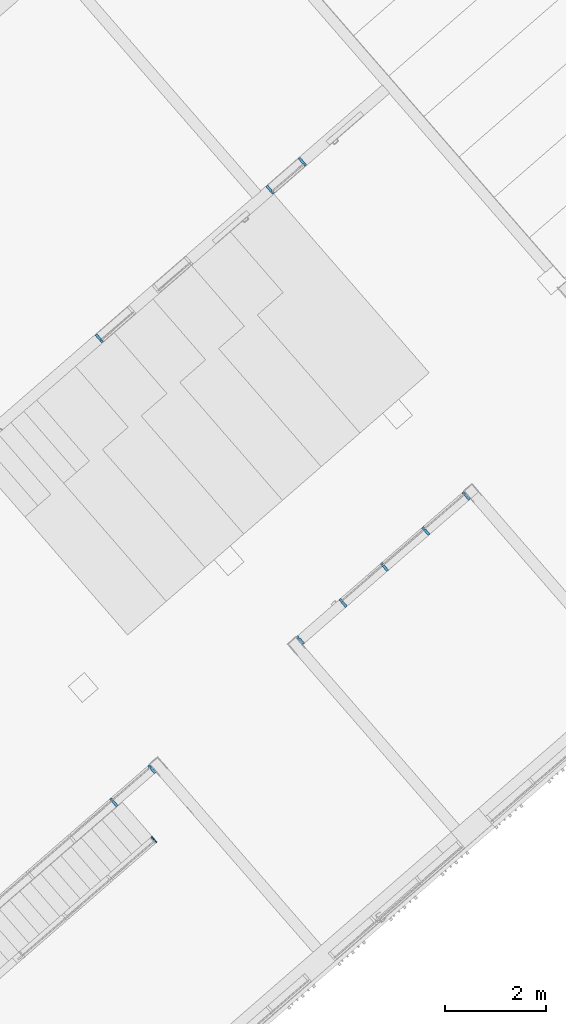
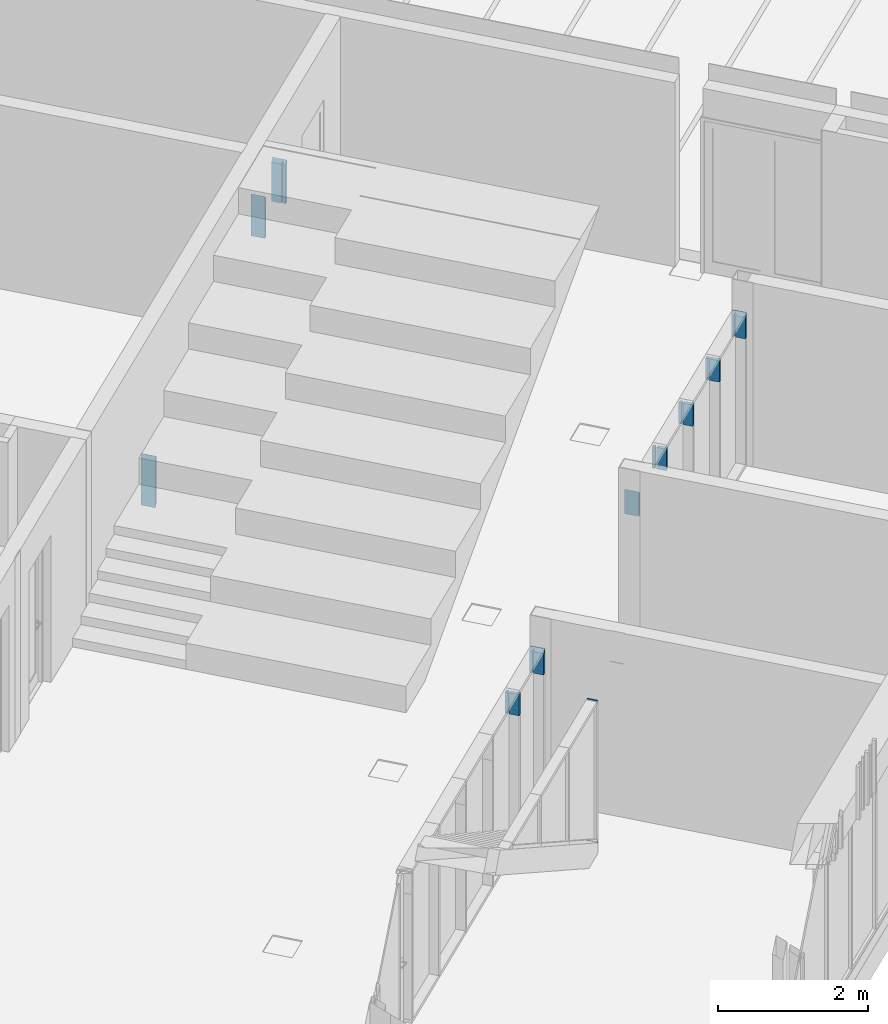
# One storey, part 16 of 124: 12 discrete accessories, 5 elements without a shape of their own.
"""IFC2X3 building model written with IfcOpenShell, lengths in millimetres."""

from ifc_helpers import new_model, entity, si_unit, converted_unit, derived_unit, money_unit, direction, frame, origin_with_axes, place, context, subcontext, project, spatial, polyline, outline, extrude, clip, halfspace, material, material_list, type_object, element, aggregate, save


model = new_model("IFC2X3")

# Units and contexts
model_context = context("Model", 3, precision=1e-05, world=origin_with_axes(), true_north=direction((0.0, 1.0)))
body_context = subcontext(model_context, "Body", "Model", "MODEL_VIEW")
ifc_project = project(units=[si_unit("LENGTHUNIT", "METRE", prefix="MILLI"), si_unit("AREAUNIT", "SQUARE_METRE"), si_unit("VOLUMEUNIT", "CUBIC_METRE"), converted_unit("PLANEANGLEUNIT", "DEGREE", entity("IfcPlaneAngleMeasure", 0.0174532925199), si_unit("PLANEANGLEUNIT", "RADIAN"), dimensions=[0, 0, 0, 0, 0, 0, 0]), si_unit("SOLIDANGLEUNIT", "STERADIAN"), money_unit("EUR"), converted_unit("TIMEUNIT", "Year", entity("IfcTimeMeasure", 31556926.0), si_unit("TIMEUNIT", "SECOND"), dimensions=[0, 0, 1, 0, 0, 0, 0]), si_unit("MASSUNIT", "GRAM", prefix="KILO"), si_unit("THERMODYNAMICTEMPERATUREUNIT", "DEGREE_CELSIUS"), si_unit("LUMINOUSINTENSITYUNIT", "LUMEN"), si_unit("ENERGYUNIT", "JOULE", prefix="MEGA"), derived_unit("THERMALCONDUCTANCEUNIT", [(si_unit("POWERUNIT", "WATT"), 1), (si_unit("LENGTHUNIT", "METRE"), -1), (si_unit("THERMODYNAMICTEMPERATUREUNIT", "KELVIN"), -1)]), derived_unit("SPECIFICHEATCAPACITYUNIT", [(si_unit("ENERGYUNIT", "JOULE"), 1), (si_unit("MASSUNIT", "GRAM", prefix="KILO"), -1), (si_unit("THERMODYNAMICTEMPERATUREUNIT", "KELVIN"), -1)]), derived_unit("MASSDENSITYUNIT", [(si_unit("MASSUNIT", "GRAM", prefix="KILO"), 1), (si_unit("VOLUMEUNIT", "CUBIC_METRE"), -1)])], contexts=[model_context])

# Site, building, storey
site_placement = place(None, origin_with_axes())
site = spatial("IfcSite", under=ifc_project, at=site_placement, Name="Site", CompositionType="ELEMENT")
building_placement = place(site_placement, origin_with_axes())
building = spatial("IfcBuilding", under=site, at=building_placement, Name="Building", CompositionType="ELEMENT")
storey_placement = place(building_placement, frame((0.0, 0.0, -1615.0), z_axis=(0.0, 0.0, 1.0), x_axis=(1.0, 0.0, 0.0)))
storey = spatial("IfcBuildingStorey", under=building, at=storey_placement, Name="0  korrus", CompositionType="ELEMENT", Elevation=-1615.0)

# Curtain wall, discrete accessory
curtain_wall_type_1 = type_object("IfcCurtainWallType", Name="KS-08", PredefinedType="NOTDEFINED")
curtain_wall_1_placement = place(storey_placement, frame((158892.83979, 99279.6170725, 9.8956762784e-06), z_axis=(0.0, 0.0, 1.0), x_axis=(1.0, 0.0, 0.0)))
curtain_wall_1 = element("IfcCurtainWall", 1, at=curtain_wall_1_placement, inside=storey, type_object=curtain_wall_type_1, Name="Klaas-sein")
ifc_material = material(Name="Aluminium MUST")
ifc_material_list_1 = material_list([ifc_material, ifc_material, ifc_material])
discrete_accessory_type_1 = type_object("IfcDiscreteAccessoryType", Name="50 x 200")
discrete_accessory_1_placement = place(curtain_wall_1_placement, frame((-339.619297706, -295.226578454, 0.0), z_axis=(0.0, 0.0, 1.0), x_axis=(-0.754709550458, -0.656059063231, 0.0)))
discrete_accessory_1 = element("IfcDiscreteAccessory", 2, at=discrete_accessory_1_placement, type_object=discrete_accessory_type_1, material=ifc_material_list_1, Name="KS-08 profiil", context=body_context, shape_type="Clipping", body=[
    clip(clip(extrude(outline(polyline([(12.3071481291, 23.9485720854), (-6.56059063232, 7.54709550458), (6.56059063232, -7.54709550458), (25.4283293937, 8.8543810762), (12.3071481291, 23.9485720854)])), frame((0.0, 0.0, 0.0), z_axis=(0.0, 0.0, 1.0), x_axis=(-0.754709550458, 0.656059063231, 0.0)), (0.0, 0.0, 1.0), 844.52639615), halfspace(frame((0.0, 0.0, 0.0), z_axis=(0.707106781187, 0.0, 0.707106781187), x_axis=(0.0, -1.0, 0.0)), True)), halfspace(frame((-389.526719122, 0.0, 585.282042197), z_axis=(0.554048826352, 0.0, -0.832484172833), x_axis=(0.0, 1.0, 0.0)), True)),
    clip(clip(extrude(outline(polyline([(-60.6733819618, 146.00938573), (-98.4088594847, 113.206432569), (-6.56059063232, 7.54709550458), (31.1748868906, 40.3500486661), (-60.6733819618, 146.00938573)])), frame((0.0, 0.0, 0.0), z_axis=(0.0, 0.0, 1.0), x_axis=(-0.754709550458, 0.656059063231, 0.0)), (0.0, 0.0, 1.0), 844.52639615), halfspace(frame((0.0, 0.0, 0.0), z_axis=(0.707106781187, 0.0, 0.707106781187), x_axis=(0.0, -1.0, 0.0)), True)), halfspace(frame((-389.526719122, 0.0, 585.282042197), z_axis=(0.554048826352, 0.0, -0.832484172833), x_axis=(0.0, 1.0, 0.0)), True)),
    clip(clip(extrude(outline(polyline([(32.8029531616, -37.7354775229), (70.5384306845, -4.93252436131), (44.2960681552, 25.255857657), (6.56059063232, -7.54709550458), (32.8029531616, -37.7354775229)])), frame((0.0, 0.0, 0.0), z_axis=(0.0, 0.0, 1.0), x_axis=(-0.754709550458, 0.656059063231, 0.0)), (0.0, 0.0, 1.0), 844.52639615), halfspace(frame((0.0, 0.0, 0.0), z_axis=(0.707106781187, 0.0, 0.707106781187), x_axis=(0.0, -1.0, 0.0)), True)), halfspace(frame((-389.526719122, 0.0, 585.282042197), z_axis=(0.554048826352, 0.0, -0.832484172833), x_axis=(0.0, 1.0, 0.0)), True)),
])
aggregate(curtain_wall_1, [discrete_accessory_1])

# Curtain wall, discrete accessories
curtain_wall_type_2 = type_object("IfcCurtainWallType", Name="KS-11", PredefinedType="NOTDEFINED")
curtain_wall_2_placement = place(storey_placement, frame((162288.958776, 102231.818295, -1.76046830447e-05), z_axis=(0.0, 0.0, 1.0), x_axis=(1.0, 0.0, 0.0)))
curtain_wall_2 = element("IfcCurtainWall", 3, at=curtain_wall_2_placement, inside=storey, type_object=curtain_wall_type_2, Name="Klaas-sein")
discrete_accessory_type_2 = type_object("IfcDiscreteAccessoryType", Name="50 x 200")
discrete_accessory_2_placement = place(curtain_wall_2_placement, frame((339.619297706, 295.226578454, 1414.28571922), z_axis=(0.0, 0.0, 1.0), x_axis=(-0.754709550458, -0.656059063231, 0.0)))
discrete_accessory_2 = element("IfcDiscreteAccessory", 4, at=discrete_accessory_2_placement, type_object=discrete_accessory_type_2, material=ifc_material_list_1, Name="KS-11profiil", context=body_context, shape_type="Clipping", body=[
    clip(extrude(outline(polyline([(-25.4283293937, -8.8543810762), (-12.3071481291, -23.9485720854), (6.56059063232, -7.54709550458), (-6.56059063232, 7.54709550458), (-25.4283293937, -8.8543810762)])), frame((0.0, 0.0, 0.0), z_axis=(0.0, 0.0, 1.0), x_axis=(-0.754709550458, 0.656059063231, 0.0)), (0.0, 0.0, 1.0), 685.714300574), halfspace(frame((342.857150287, 0.0, 342.857150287), z_axis=(-0.707106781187, 0.0, -0.707106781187), x_axis=(0.0, 1.0, 0.0)), True)),
    clip(extrude(outline(polyline([(-136.144337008, 80.4034794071), (-44.2960681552, -25.255857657), (-6.56059063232, 7.54709550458), (-98.4088594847, 113.206432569), (-136.144337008, 80.4034794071)])), frame((0.0, 0.0, 0.0), z_axis=(0.0, 0.0, 1.0), x_axis=(-0.754709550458, 0.656059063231, 0.0)), (0.0, 0.0, 1.0), 685.714300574), halfspace(frame((342.857150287, 0.0, 342.857150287), z_axis=(-0.707106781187, 0.0, -0.707106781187), x_axis=(0.0, 1.0, 0.0)), True)),
    clip(extrude(outline(polyline([(32.8029531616, -37.7354775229), (6.56059063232, -7.54709550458), (-31.1748868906, -40.3500486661), (-4.93252436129, -70.5384306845), (32.8029531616, -37.7354775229)])), frame((0.0, 0.0, 0.0), z_axis=(0.0, 0.0, 1.0), x_axis=(-0.754709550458, 0.656059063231, 0.0)), (0.0, 0.0, 1.0), 685.714300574), halfspace(frame((342.857150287, 0.0, 342.857150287), z_axis=(-0.707106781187, 0.0, -0.707106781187), x_axis=(0.0, 1.0, 0.0)), True)),
])
discrete_accessory_3_placement = place(curtain_wall_2_placement, frame((-339.619297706, -295.226578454, 1414.28571922), z_axis=(0.0, 0.0, 1.0), x_axis=(-0.754709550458, -0.656059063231, 0.0)))
discrete_accessory_3 = element("IfcDiscreteAccessory", 5, at=discrete_accessory_3_placement, type_object=discrete_accessory_type_2, material=ifc_material_list_1, Name="KS-11profiil", context=body_context, shape_type="Clipping", body=[
    clip(extrude(outline(polyline([(12.3071481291, 23.9485720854), (-6.56059063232, 7.54709550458), (6.56059063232, -7.54709550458), (25.4283293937, 8.8543810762), (12.3071481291, 23.9485720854)])), frame((0.0, 0.0, 0.0), z_axis=(0.0, 0.0, 1.0), x_axis=(-0.754709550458, 0.656059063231, 0.0)), (0.0, 0.0, 1.0), 685.714300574), halfspace(frame((-342.857150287, 0.0, 342.857150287), z_axis=(0.707106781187, 0.0, -0.707106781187), x_axis=(0.0, 1.0, 0.0)), True)),
    clip(extrude(outline(polyline([(-60.6733819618, 146.00938573), (-98.4088594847, 113.206432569), (-6.56059063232, 7.54709550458), (31.1748868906, 40.3500486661), (-60.6733819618, 146.00938573)])), frame((0.0, 0.0, 0.0), z_axis=(0.0, 0.0, 1.0), x_axis=(-0.754709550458, 0.656059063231, 0.0)), (0.0, 0.0, 1.0), 685.714300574), halfspace(frame((-342.857150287, 0.0, 342.857150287), z_axis=(0.707106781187, 0.0, -0.707106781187), x_axis=(0.0, 1.0, 0.0)), True)),
    clip(extrude(outline(polyline([(32.8029531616, -37.7354775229), (70.5384306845, -4.93252436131), (44.2960681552, 25.255857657), (6.56059063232, -7.54709550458), (32.8029531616, -37.7354775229)])), frame((0.0, 0.0, 0.0), z_axis=(0.0, 0.0, 1.0), x_axis=(-0.754709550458, 0.656059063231, 0.0)), (0.0, 0.0, 1.0), 685.714300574), halfspace(frame((-342.857150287, 0.0, 342.857150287), z_axis=(0.707106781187, 0.0, -0.707106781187), x_axis=(0.0, 1.0, 0.0)), True)),
])
aggregate(curtain_wall_2, [discrete_accessory_2, discrete_accessory_3])

curtain_wall_type_3 = type_object("IfcCurtainWallType", Name="KS-14", PredefinedType="NOTDEFINED")
curtain_wall_3_placement = place(storey_placement, frame((158378.483684, 89491.1525306, -3.95351700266e-05), z_axis=(0.0, 0.0, 1.0), x_axis=(1.0, 0.0, 0.0)))
curtain_wall_3 = element("IfcCurtainWall", 6, at=curtain_wall_3_placement, inside=storey, type_object=curtain_wall_type_3, Name="Klaas-sein")
discrete_accessory_type_3 = type_object("IfcDiscreteAccessoryType", Name="50 x 200")
discrete_accessory_4_placement = place(curtain_wall_3_placement, frame((1192.44113624, 1036.57326639, 2100.00003954), z_axis=(0.0, 0.0, 1.0), x_axis=(0.754709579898, 0.656059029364, 0.0)))
discrete_accessory_4 = element("IfcDiscreteAccessory", 7, at=discrete_accessory_4_placement, type_object=discrete_accessory_type_3, Name="KS-14 profiil", context=body_context, shape_type="Clipping", body=[
    clip(extrude(outline(polyline([(-12.3071492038, -23.9485715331), (6.56059029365, -7.54709579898), (-6.56059029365, 7.54709579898), (-25.4283297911, -8.85437993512), (-12.3071492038, -23.9485715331)])), frame((0.0, 0.0, 0.0), z_axis=(0.0, 0.0, 1.0), x_axis=(0.754709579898, -0.656059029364, 0.0)), (0.0, 0.0, 1.0), 400.000032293), halfspace(frame((-200.000016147, 0.0, 200.000016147), z_axis=(0.707106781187, 0.0, -0.707106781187), x_axis=(0.0, 1.0, 0.0)), True)),
    clip(extrude(outline(polyline([(60.6733754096, -146.009388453), (98.4088544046, -113.206436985), (6.56059029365, -7.54709579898), (-31.1748887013, -40.3500472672), (60.6733754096, -146.009388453)])), frame((0.0, 0.0, 0.0), z_axis=(0.0, 0.0, 1.0), x_axis=(0.754709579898, -0.656059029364, 0.0)), (0.0, 0.0, 1.0), 400.000032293), halfspace(frame((-200.000016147, 0.0, 200.000016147), z_axis=(0.707106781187, 0.0, -0.707106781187), x_axis=(0.0, 1.0, 0.0)), True)),
    clip(extrude(outline(polyline([(-32.8029514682, 37.7354789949), (-70.5384304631, 4.93252752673), (-44.2960692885, -25.2558556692), (-6.56059029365, 7.54709579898), (-32.8029514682, 37.7354789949)])), frame((0.0, 0.0, 0.0), z_axis=(0.0, 0.0, 1.0), x_axis=(0.754709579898, -0.656059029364, 0.0)), (0.0, 0.0, 1.0), 400.000032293), halfspace(frame((-200.000016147, 0.0, 200.000016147), z_axis=(0.707106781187, 0.0, -0.707106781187), x_axis=(0.0, 1.0, 0.0)), True)),
])
ifc_material_list_2 = material_list([ifc_material, ifc_material])
discrete_accessory_5_placement = place(curtain_wall_3_placement, frame((415.090268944, 360.83246615, 2100.00003954), z_axis=(0.0, 0.0, 1.0), x_axis=(0.754709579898, 0.656059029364, 0.0)))
discrete_accessory_5 = element("IfcDiscreteAccessory", 8, at=discrete_accessory_5_placement, type_object=discrete_accessory_type_3, material=ifc_material_list_2, Name="KS-14 profiil", context=body_context, shape_type="SweptSolid", body=[
    extrude(outline(polyline([(-12.3071492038, -23.9485715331), (79.5411149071, -129.607912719), (117.276593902, -96.8049612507), (25.4283297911, 8.85437993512), (-12.3071492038, -23.9485715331)])), frame((0.0, 0.0, 0.0), z_axis=(0.0, 0.0, 1.0), x_axis=(0.754709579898, -0.656059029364, 0.0)), (0.0, 0.0, 1.0), 350.000032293),
    extrude(outline(polyline([(-25.4283297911, -8.85437993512), (12.3071492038, 23.9485715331), (-13.9352119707, 54.136954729), (-51.6706909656, 21.3340032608), (-25.4283297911, -8.85437993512)])), frame((0.0, 0.0, 0.0), z_axis=(0.0, 0.0, 1.0), x_axis=(0.754709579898, -0.656059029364, 0.0)), (0.0, 0.0, 1.0), 350.000032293),
])
aggregate(curtain_wall_3, [discrete_accessory_4, discrete_accessory_5])

curtain_wall_type_4 = type_object("IfcCurtainWallType", Name="KS-13", PredefinedType="NOTDEFINED")
curtain_wall_4_placement = place(storey_placement, frame((162918.061807, 93437.3475866, 0.0), z_axis=(0.0, 0.0, 1.0), x_axis=(1.0, 0.0, 0.0)))
curtain_wall_4 = element("IfcCurtainWall", 9, at=curtain_wall_4_placement, inside=storey, type_object=curtain_wall_type_4, Name="Klaas-sein")
discrete_accessory_type_4 = type_object("IfcDiscreteAccessoryType", Name="50 x 200")
discrete_accessory_6_placement = place(curtain_wall_4_placement, frame((2079.22489004, 1807.44262886, 2100.0), z_axis=(0.0, 0.0, 1.0), x_axis=(-0.754709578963, -0.65605903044, 0.0)))
discrete_accessory_6 = element("IfcDiscreteAccessory", 10, at=discrete_accessory_6_placement, type_object=discrete_accessory_type_4, material=ifc_material_list_2, Name="KS-13 profiil", context=body_context, shape_type="SweptSolid", body=[
    extrude(outline(polyline([(-12.3071491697, -23.9485715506), (79.5411150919, -129.607912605), (117.27659404, -96.8049610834), (25.4283297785, 8.85437997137), (-12.3071491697, -23.9485715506)])), frame((0.0, 0.0, 0.0), z_axis=(0.0, 0.0, 1.0), x_axis=(-0.754709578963, 0.65605903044, 0.0)), (0.0, 0.0, 1.0), 349.999942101),
    extrude(outline(polyline([(12.3071491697, 23.9485715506), (-13.9352120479, 54.1369547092), (-51.670690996, 21.3340031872), (-25.4283297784, -8.85437997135), (12.3071491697, 23.9485715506)])), frame((0.0, 0.0, 0.0), z_axis=(0.0, 0.0, 1.0), x_axis=(-0.754709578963, 0.65605903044, 0.0)), (0.0, 0.0, 1.0), 349.999942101),
])
discrete_accessory_7_placement = place(curtain_wall_4_placement, frame((433.958007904, 377.233942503, 2100.0), z_axis=(0.0, 0.0, 1.0), x_axis=(-0.754709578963, -0.65605903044, 0.0)))
discrete_accessory_7 = element("IfcDiscreteAccessory", 11, at=discrete_accessory_7_placement, type_object=discrete_accessory_type_4, material=ifc_material_list_2, Name="KS-13 profiil", context=body_context, shape_type="SweptSolid", body=[
    extrude(outline(polyline([(-12.3071491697, -23.9485715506), (79.5411150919, -129.607912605), (117.27659404, -96.8049610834), (25.4283297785, 8.85437997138), (-12.3071491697, -23.9485715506)])), frame((0.0, 0.0, 0.0), z_axis=(0.0, 0.0, 1.0), x_axis=(-0.754709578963, 0.65605903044, 0.0)), (0.0, 0.0, 1.0), 349.999942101),
    extrude(outline(polyline([(12.3071491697, 23.9485715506), (-13.9352120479, 54.1369547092), (-51.670690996, 21.3340031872), (-25.4283297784, -8.85437997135), (12.3071491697, 23.9485715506)])), frame((0.0, 0.0, 0.0), z_axis=(0.0, 0.0, 1.0), x_axis=(-0.754709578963, 0.65605903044, 0.0)), (0.0, 0.0, 1.0), 349.999942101),
])
discrete_accessory_8_placement = place(curtain_wall_4_placement, frame((1256.59144897, 1092.33828568, 2100.0), z_axis=(0.0, 0.0, 1.0), x_axis=(-0.754709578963, -0.65605903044, 0.0)))
discrete_accessory_8 = element("IfcDiscreteAccessory", 12, at=discrete_accessory_8_placement, type_object=discrete_accessory_type_4, material=ifc_material_list_2, Name="KS-13 profiil", context=body_context, shape_type="SweptSolid", body=[
    extrude(outline(polyline([(-12.3071491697, -23.9485715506), (79.5411150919, -129.607912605), (117.27659404, -96.8049610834), (25.4283297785, 8.85437997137), (-12.3071491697, -23.9485715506)])), frame((0.0, 0.0, 0.0), z_axis=(0.0, 0.0, 1.0), x_axis=(-0.754709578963, 0.65605903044, 0.0)), (0.0, 0.0, 1.0), 349.999942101),
    extrude(outline(polyline([(12.3071491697, 23.9485715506), (-13.9352120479, 54.1369547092), (-51.670690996, 21.3340031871), (-25.4283297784, -8.85437997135), (12.3071491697, 23.9485715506)])), frame((0.0, 0.0, 0.0), z_axis=(0.0, 0.0, 1.0), x_axis=(-0.754709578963, 0.65605903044, 0.0)), (0.0, 0.0, 1.0), 349.999942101),
])
discrete_accessory_9_placement = place(curtain_wall_4_placement, frame((-433.958007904, -377.233942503, 2100.0), z_axis=(0.0, 0.0, 1.0), x_axis=(-0.754709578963, -0.65605903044, 0.0)))
discrete_accessory_9 = element("IfcDiscreteAccessory", 13, at=discrete_accessory_9_placement, type_object=discrete_accessory_type_4, material=ifc_material, Name="KS-13 profiil", context=body_context, shape_type="Clipping", body=[
    clip(extrude(outline(polyline([(25.4283297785, 8.85437997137), (12.3071491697, 23.9485715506), (31.1748886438, 40.3500473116), (4.93252742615, 70.5384304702), (-32.802951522, 37.7354789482), (98.4088545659, -113.206436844), (136.144333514, -80.4034853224), (44.2960692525, 25.2558557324), (25.4283297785, 8.85437997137)])), frame((0.0, 0.0, 0.0), z_axis=(0.0, 0.0, 1.0), x_axis=(-0.754709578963, 0.65605903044, 0.0)), (0.0, 0.0, 1.0), 399.999942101), halfspace(frame((-199.999971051, 0.0, 199.999971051), z_axis=(0.707106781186, 0.0, -0.707106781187), x_axis=(0.0, 1.0, 0.0)), True)),
])
discrete_accessory_10_placement = place(curtain_wall_4_placement, frame((2901.85833111, 2522.54697204, 2100.0), z_axis=(0.0, 0.0, 1.0), x_axis=(-0.754709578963, -0.65605903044, 0.0)))
discrete_accessory_10 = element("IfcDiscreteAccessory", 14, at=discrete_accessory_10_placement, type_object=discrete_accessory_type_4, material=ifc_material, Name="KS-13 profiil", context=body_context, shape_type="Clipping", body=[
    clip(extrude(outline(polyline([(-12.3071491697, -23.9485715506), (-31.1748886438, -40.3500473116), (60.6733756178, -146.009388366), (98.408854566, -113.206436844), (-32.802951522, 37.7354789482), (-70.5384304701, 4.93252742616), (-44.2960692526, -25.2558557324), (-25.4283297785, -8.85437997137), (-12.3071491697, -23.9485715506)])), frame((0.0, 0.0, 0.0), z_axis=(0.0, 0.0, 1.0), x_axis=(-0.754709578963, 0.65605903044, 0.0)), (0.0, 0.0, 1.0), 399.999942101), halfspace(frame((199.999971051, 0.0, 199.999971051), z_axis=(-0.707106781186, 0.0, -0.707106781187), x_axis=(0.0, 1.0, 0.0)), True)),
])
aggregate(curtain_wall_4, [discrete_accessory_6, discrete_accessory_7, discrete_accessory_8, discrete_accessory_9, discrete_accessory_10])

curtain_wall_type_5 = type_object("IfcCurtainWallType", Name="KS-21", PredefinedType="NOTDEFINED")
curtain_wall_5_placement = place(storey_placement, frame((156960.91707, 86721.8655907, 170.75), z_axis=(0.0, 0.0, 1.0), x_axis=(1.0, 0.0, 0.0)))
curtain_wall_5 = element("IfcCurtainWall", 15, at=curtain_wall_5_placement, inside=storey, type_object=curtain_wall_type_5, Name="Klaas-sein")
discrete_accessory_type_5 = type_object("IfcDiscreteAccessoryType", Name="50 x 150")
discrete_accessory_11_placement = place(curtain_wall_5_placement, frame((2691.79758868, 2339.9439464, 2329.2500125), z_axis=(-0.75470957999, -0.656059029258, 4.28364894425e-07), x_axis=(-3.23291089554e-07, -2.81032656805e-07, -1.0)))
discrete_accessory_11 = element("IfcDiscreteAccessory", 16, at=discrete_accessory_11_placement, type_object=discrete_accessory_type_5, material=ifc_material, Name="KS-21 profiil", context=body_context, shape_type="Clipping", body=[
    clip(extrude(outline(polyline([(-50.0, 24.9999927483), (-50.0, 0.0), (100.0, 0.0), (100.0, 24.9999927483), (-50.0, 24.9999927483)])), frame((0.0, 0.0, 0.0), z_axis=(0.0, 0.0, 1.0), x_axis=(0.0, -1.0, 0.0)), (0.0, 0.0, 1.0), 24.9999819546), halfspace(frame((0.0, 0.0, 0.0), z_axis=(-0.70710662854, 0.0, 0.707106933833), x_axis=(0.0, -1.0, 0.0)), True)),
])
discrete_accessory_12_placement = place(curtain_wall_5_placement, frame((2672.92987088, 2323.54248953, 15.8236857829), z_axis=(0.637704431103, 0.554348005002, -0.534818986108), x_axis=(0.403633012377, 0.350872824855, 0.844966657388)))
discrete_accessory_12 = element("IfcDiscreteAccessory", 17, at=discrete_accessory_12_placement, type_object=discrete_accessory_type_5, material=ifc_material, Name="KS-21 profiil", context=body_context, shape_type="Clipping", body=[
    clip(extrude(outline(polyline([(50.0, -16.2885666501), (50.0, 0.0), (-100.0, 0.0), (-100.0, -16.2885666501), (50.0, -16.2885666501)])), frame((0.0, 0.0, -2.64155062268e-05), z_axis=(0.0, 0.0, 1.0), x_axis=(0.0, 1.0, 0.0)), (0.0, 0.0, 1.0), 29.5869679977), halfspace(frame((12.4999895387, 0.0, 6.88164169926), z_axis=(-0.876019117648, 0.0, -0.482276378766), x_axis=(0.0, 1.0, 0.0)), True)),
])
aggregate(curtain_wall_5, [discrete_accessory_11, discrete_accessory_12])

save(model, "model.ifc")
